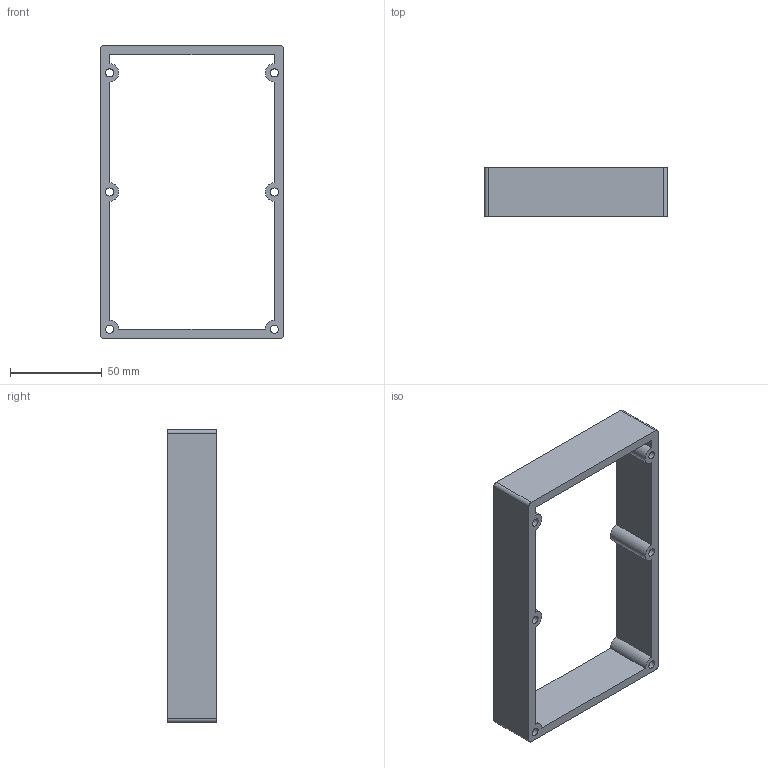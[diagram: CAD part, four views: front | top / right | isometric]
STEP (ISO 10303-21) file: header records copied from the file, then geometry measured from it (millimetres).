
FILE_DESCRIPTION(/* description */ (''),/* implementation_level */ '2;1');
FILE_NAME(/* name */ 'Heater box v10.step',/* time_stamp */ '2025-08-30T19:24:13-06:00',/* author */ (''),/* organization */ (''),/* preprocessor_version */ 'ST-DEVELOPER v20.1',/* originating_system */ 'Autodesk Translation Framework v14.10.0.0',/* authorisation */ '');
FILE_SCHEMA (('AUTOMOTIVE_DESIGN { 1 0 10303 214 3 1 1 }','PROCESS_PLANNING_SCHEMA'));
Length unit declared in the file: millimetre
Products named in the file (1): Heater box
Bounding box: 100 x 27 x 160 mm (x, y, z)
Volume: 70245.5 mm3; surface area: 34850.6 mm2
Topology: 1 solids, 1 shells, 30 faces, 84 edges, 56 vertices
Faces by surface type: cylinder 16, plane 14
Full cylindrical faces by diameter (mm): 4.4 x6
Entity records: 1041 total; most frequent: DIRECTION 178, CARTESIAN_POINT 171, ORIENTED_EDGE 168, EDGE_CURVE 84, AXIS2_PLACEMENT_3D 63, VERTEX_POINT 56, LINE 52, VECTOR 52
